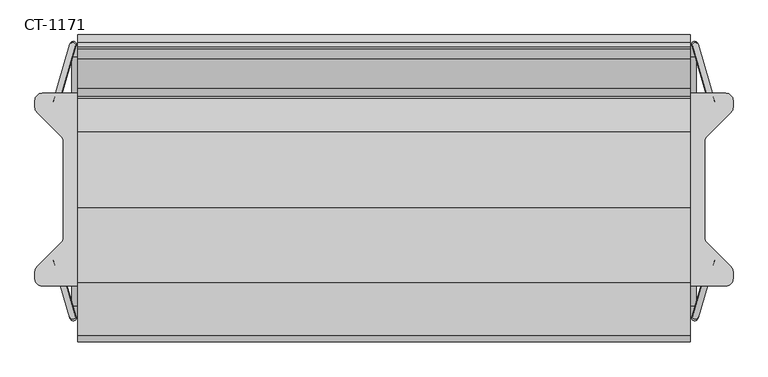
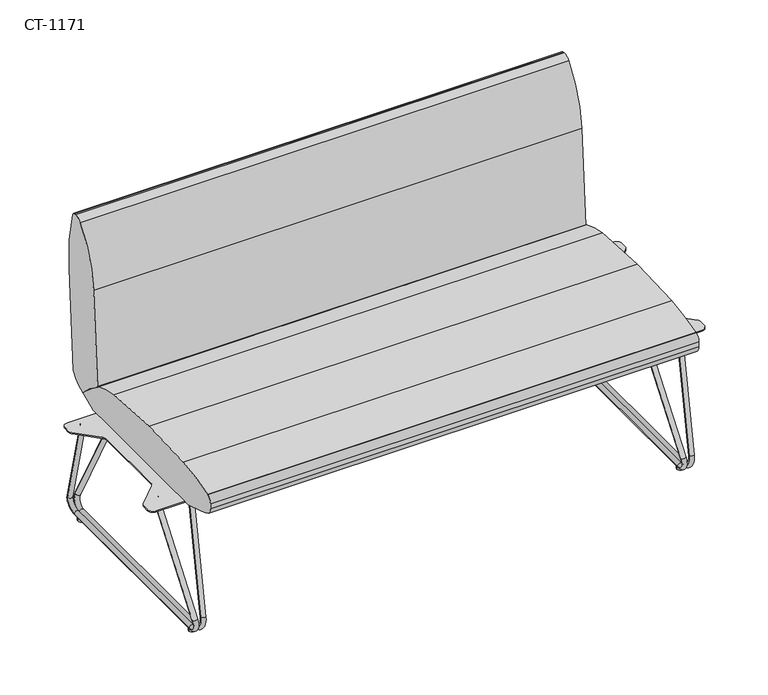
"""IFC4 building model written with IfcOpenShell, lengths in millimetres: furniture geometry, Davis_Furniture-Cantina-Low_Back_Straight : CT-1171."""

from ifc_helpers import new_model, si_unit, point, frame, frame_2d, origin, origin_with_axes, place, context, project, spatial, polyline, circle_curve, ellipse_curve, trimmed, segment, composite_curve, outline, extrude, source, transform, mapped, element, save
from ifc_brep_helpers import plane_surface, cylinder_surface, revolved_surface, advanced_brep


def ct_1171_176efd8a(model_context):
    return source(origin(), model_context, "Body", "SolidModel", [
        extrude(outline(composite_curve([segment(trimmed(circle_curve(frame_2d((709.0306813, 183.2173202)), 14.9820313), [point((709.0306813, 198.1993514))], [point((724.0127126, 183.2173202))], False, "CARTESIAN"), True, "CONTINUOUS"), segment(polyline([(724.0127126, 183.2173202), (724.0127126, 168.7877705)]), True, "CONTINUOUS"), segment(trimmed(circle_curve(frame_2d((710.0063569, 168.7877705)), 14.0063557), [point((724.0127126, 168.7877705))], [point((719.910346, 158.8837814))], False, "CARTESIAN"), True, "CONTINUOUS"), segment(polyline([(719.910346, 158.8837814), (669.3136664, 108.2871019)]), True, "CONTINUOUS"), segment(trimmed(circle_curve(frame_2d((679.6970876, 97.9036807)), 14.684375), [point((669.3136664, 108.2871019))], [point((665.0127126, 97.9036807))], True, "CARTESIAN"), True, "CONTINUOUS"), segment(polyline([(665.0127126, 97.9036807), (665.0127126, -101.5049781)]), True, "CONTINUOUS"), segment(trimmed(circle_curve(frame_2d((679.6970876, -101.5049781)), 14.684375), [point((665.0127126, -101.5049781))], [point((669.3136664, -111.8883992))], True, "CARTESIAN"), True, "CONTINUOUS"), segment(polyline([(669.3136664, -111.8883992), (719.910346, -162.4850787)]), True, "CONTINUOUS"), segment(trimmed(circle_curve(frame_2d((710.0063569, -172.3890678)), 14.0063557), [point((719.910346, -162.4850787))], [point((724.0127126, -172.3890678))], False, "CARTESIAN"), True, "CONTINUOUS"), segment(polyline([(724.0127126, -172.3890678), (724.0127126, -186.8186175)]), True, "CONTINUOUS"), segment(trimmed(circle_curve(frame_2d((709.0306813, -186.8186175)), 14.9820312), [point((724.0127126, -186.8186175))], [point((709.0306813, -201.8006488))], False, "CARTESIAN"), True, "CONTINUOUS"), segment(polyline([(709.0306813, -201.8006488), (560.9693187, -201.8006488)]), True, "CONTINUOUS"), segment(trimmed(circle_curve(frame_2d((560.9693187, -186.8440427)), 14.956606), [point((560.9693187, -201.8006488))], [point((546.0127127, -186.8440427))], False, "CARTESIAN"), True, "CONTINUOUS"), segment(polyline([(546.0127127, -186.8440427), (546.0127127, -172.3822284)]), True, "CONTINUOUS"), segment(trimmed(circle_curve(frame_2d((560.0025564, -172.3822284)), 13.9898438), [point((546.0127127, -172.3822284))], [point((550.110243, -162.489915))], False, "CARTESIAN"), True, "CONTINUOUS"), segment(polyline([(550.110243, -162.489915), (600.7117588, -111.8883992)]), True, "CONTINUOUS"), segment(trimmed(circle_curve(frame_2d((590.3283377, -101.5049781)), 14.684375), [point((600.7117588, -111.8883992))], [point((605.0127127, -101.5049781))], True, "CARTESIAN"), True, "CONTINUOUS"), segment(polyline([(605.0127127, -101.5049781), (605.0127127, 97.918921)]), True, "CONTINUOUS"), segment(trimmed(circle_curve(frame_2d((590.3651309, 97.918921)), 14.6475818), [point((605.0127127, 97.918921))], [point((600.7225353, 108.2763254))], True, "CARTESIAN"), True, "CONTINUOUS"), segment(polyline([(600.7225353, 108.2763254), (550.110243, 158.8886177)]), True, "CONTINUOUS"), segment(trimmed(circle_curve(frame_2d((560.0025564, 168.780931)), 13.9898437), [point((550.110243, 158.8886177))], [point((546.0127127, 168.780931))], False, "CARTESIAN"), True, "CONTINUOUS"), segment(polyline([(546.0127127, 168.780931), (546.0127127, 183.2427454)]), True, "CONTINUOUS"), segment(trimmed(circle_curve(frame_2d((560.9693187, 183.2427454)), 14.956606), [point((546.0127127, 183.2427454))], [point((560.9693187, 198.1993514))], False, "CARTESIAN"), True, "CONTINUOUS"), segment(polyline([(560.9693187, 198.1993514), (709.0306813, 198.1993514)]), True, "CONTINUOUS")], self_intersect=False)), frame((0.0, 0.0, 330.7277844), z_axis=(0.0, 0.0, 1.0), x_axis=(1.0, 0.0, 0.0)), (0.0, 0.0, 1.0), 3.1724353),
        advanced_brep(
        [(639.3476455, 298.4299122, 51.3019909), (651.7863293, 297.001732, 49.1737411), (686.3568189, 178.5251074, 330.7277844), (673.6568189, 180.8488451, 330.7277844), (634.9955294, 274.6441492, 15.8568497), (647.6955294, 274.6441492, 15.8568497), (634.9955294, -242.6856853, 15.8568497), (647.6955294, -242.6856853, 15.8568497), (639.3476455, -266.4714483, 51.3019909), (651.7863293, -265.0432681, 49.1737411), (673.6568189, -148.8903812, 330.7277844), (686.3568189, -146.5666435, 330.7277844)],
        [
            (0, 1, circle_curve(frame((645.5669874, 297.7158221, 50.237866), z_axis=(0.112455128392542, -0.3853952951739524, 0.9158735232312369), x_axis=(-0.9794239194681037, 0.11245512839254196, 0.16757872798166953)), 6.35)),
            (1, 2),
            (2, 3, ellipse_curve(frame((680.0068189, 179.6869762, 330.7277844), z_axis=(0.0, 0.0, -1.0), x_axis=(0.28011057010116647, -0.9599677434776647, 0.0)), 6.9332717, 6.35)),
            (3, 0),
            (1, 0, circle_curve(frame((645.5669874, 297.7158221, 50.237866), z_axis=(0.112455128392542, -0.3853952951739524, 0.9158735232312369), x_axis=(-0.9794239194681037, 0.11245512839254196, 0.16757872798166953)), 6.35)),
            (3, 2, ellipse_curve(frame((680.0068189, 179.6869762, 330.7277844), z_axis=(0.0, 0.0, -1.0), x_axis=(0.28011057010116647, -0.9599677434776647, 0.0)), 6.9332717, 6.35)),
            (0, 4, circle_curve(frame((638.1369549, 274.6441492, 41.4417072), z_axis=(-0.9925461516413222, 0.0, 0.12186934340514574), x_axis=(0.046967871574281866, 0.9227515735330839, 0.38252261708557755)), 25.7769953)),
            (4, 5, circle_curve(frame((641.3455294, 274.6441492, 15.8568497), z_axis=(0.0, 1.0, 0.0), x_axis=(-1.0, 0.0, 0.0)), 6.35)),
            (5, 1, circle_curve(frame((650.6483328, 274.6441492, 39.9055032), z_axis=(0.9925461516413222, 0.0, -0.12186934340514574), x_axis=(0.046967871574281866, 0.9227515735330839, 0.38252261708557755)), 24.2292547)),
            (5, 4, circle_curve(frame((641.3455294, 274.6441492, 15.8568497), z_axis=(0.0, 0.9999999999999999, 0.0), x_axis=(-1.0, 0.0, 0.0)), 6.35)),
            (4, 6),
            (6, 7, circle_curve(frame((641.3455294, -242.6856853, 15.8568497), z_axis=(0.0, 1.0, 0.0), x_axis=(-1.0, 0.0, 0.0)), 6.35)),
            (7, 5),
            (7, 6, circle_curve(frame((641.3455294, -242.6856853, 15.8568497), z_axis=(0.0, 1.0, 0.0), x_axis=(-1.0, 0.0, 0.0)), 6.35)),
            (6, 8, circle_curve(frame((638.1369549, -242.6856853, 41.4417072), z_axis=(-0.9925461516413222, 0.0, 0.12186934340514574), x_axis=(-0.12186934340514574, 0.0, -0.9925461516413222)), 25.7769953)),
            (8, 9, circle_curve(frame((645.5669874, -265.7573582, 50.237866), z_axis=(-0.11245512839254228, -0.3853952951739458, -0.9158735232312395), x_axis=(-0.9794239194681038, -0.1124551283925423, 0.16757872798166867)), 6.35)),
            (9, 7, circle_curve(frame((650.6483328, -242.6856853, 39.9055032), z_axis=(0.9925461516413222, 0.0, -0.12186934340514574), x_axis=(-0.12186934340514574, 0.0, -0.9925461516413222)), 24.2292547)),
            (9, 8, circle_curve(frame((645.5669874, -265.7573582, 50.237866), z_axis=(-0.11245512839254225, -0.3853952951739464, -0.9158735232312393), x_axis=(-0.9794239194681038, -0.11245512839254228, 0.16757872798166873)), 6.35)),
            (8, 10),
            (10, 11, ellipse_curve(frame((680.0068189, -147.7285123, 330.7277844), z_axis=(0.0, 0.0, -1.0), x_axis=(-0.28011057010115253, -0.9599677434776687, 0.0)), 6.9332717, 6.35)),
            (11, 9),
            (11, 10, ellipse_curve(frame((680.0068189, -147.7285123, 330.7277844), z_axis=(0.0, 0.0, -1.0), x_axis=(-0.28011057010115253, -0.9599677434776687, 0.0)), 6.9332717, 6.35)),
        ],
        [
            cylinder_surface(frame((681.1405198, 175.8016664, 339.9610379), z_axis=(0.112455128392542, -0.3853952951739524, 0.9158735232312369), x_axis=(-0.9794239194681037, 0.11245512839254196, 0.16757872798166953)), 6.35),
            revolved_surface(trimmed(ellipse_curve(frame((645.5669874, 297.7158221, 50.237866), z_axis=(0.11245512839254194, -0.38539529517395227, 0.9158735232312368), x_axis=(-0.9794239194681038, 0.112455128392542, 0.1675787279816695)), 6.35, 6.35), [point((639.3476455, 298.4299122, 51.3019909))], [point((651.7863293, 297.001732, 49.1737411))], True, "CARTESIAN"), (697.3582375, 274.6441492, 34.170248), (-0.9925461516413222, 0.0, 0.12186934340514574)),
            revolved_surface(trimmed(ellipse_curve(frame((645.5669874, 297.7158221, 50.237866), z_axis=(0.11245512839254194, -0.38539529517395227, 0.9158735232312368), x_axis=(-0.9794239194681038, 0.112455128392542, 0.1675787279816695)), 6.35, 6.35), [point((651.7863293, 297.001732, 49.1737411))], [point((639.3476455, 298.4299122, 51.3019909))], True, "CARTESIAN"), (697.3582375, 274.6441492, 34.170248), (-0.9925461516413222, 0.0, 0.12186934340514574)),
            cylinder_surface(frame((641.3455294, 274.6441492, 15.8568497), z_axis=(0.0, 1.0, 0.0), x_axis=(-1.0, 0.0, 0.0)), 6.35),
            revolved_surface(trimmed(ellipse_curve(frame((641.3455294, -242.6856853, 15.8568497), z_axis=(0.0, 1.0, 0.0), x_axis=(-1.0, 0.0, 0.0)), 6.35, 6.35), [point((634.9955294, -242.6856853, 15.8568497))], [point((647.6955294, -242.6856853, 15.8568497))], True, "CARTESIAN"), (697.3582375, -242.6856853, 34.170248), (-0.9925461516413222, 0.0, 0.12186934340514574)),
            revolved_surface(trimmed(ellipse_curve(frame((641.3455294, -242.6856853, 15.8568497), z_axis=(0.0, 1.0, 0.0), x_axis=(-1.0, 0.0, 0.0)), 6.35, 6.35), [point((647.6955294, -242.6856853, 15.8568497))], [point((634.9955294, -242.6856853, 15.8568497))], True, "CARTESIAN"), (697.3582375, -242.6856853, 34.170248), (-0.9925461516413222, 0.0, 0.12186934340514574)),
            cylinder_surface(frame((645.5669874, -265.7573582, 50.237866), z_axis=(-0.11245512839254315, -0.38539529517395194, -0.9158735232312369), x_axis=(-0.9794239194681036, -0.11245512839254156, 0.1675787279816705)), 6.35),
            plane_surface(frame((574.675, -168.170768, 330.7277844), z_axis=(0.0, 0.0, 1.0), x_axis=(0.0, 1.0, 0.0))),
        ],
        [
            (0, [[1, 2, 3, 4]]),
            (0, [[5, -4, 6, -2]]),
            (1, [[-1, 7, 8, 9]]),
            (2, [[-5, -9, 10, -7]]),
            (3, [[-8, 11, 12, 13]]),
            (3, [[-10, -13, 14, -11]]),
            (4, [[-12, 15, 16, 17]]),
            (5, [[-14, -17, 18, -15]]),
            (6, [[-16, 19, 20, 21]]),
            (6, [[-18, -21, 22, -19]]),
            (7, [[-3, -6]]),
            (7, [[-20, -22]]),
        ],
    ),
        advanced_brep(
        [(618.2136707, 297.001732, 49.1737411), (630.6523545, 298.4299122, 51.3019909), (596.3431811, 180.8488451, 330.7277844), (583.6431811, 178.5251074, 330.7277844), (622.3044706, 274.6441492, 15.8568497), (635.0044706, 274.6441492, 15.8568497), (622.3044706, -242.6856853, 15.8568497), (635.0044706, -242.6856853, 15.8568497), (618.2136707, -265.0432681, 49.1737411), (630.6523545, -266.4714483, 51.3019909), (583.6431811, -146.5666435, 330.7277844), (596.3431811, -148.8903812, 330.7277844)],
        [
            (0, 1, circle_curve(frame((624.4330126, 297.7158221, 50.237866), z_axis=(-0.11245512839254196, -0.38539529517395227, 0.915873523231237), x_axis=(0.9794239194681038, 0.11245512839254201, 0.1675787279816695)), 6.35)),
            (1, 2),
            (2, 3, ellipse_curve(frame((589.9931811, 179.6869762, 330.7277844), z_axis=(0.0, 0.0, -1.0), x_axis=(-0.28011057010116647, -0.9599677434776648, 0.0)), 6.9332717, 6.35)),
            (3, 0),
            (1, 0, circle_curve(frame((624.4330126, 297.7158221, 50.237866), z_axis=(-0.11245512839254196, -0.38539529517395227, 0.915873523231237), x_axis=(0.9794239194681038, 0.11245512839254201, 0.1675787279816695)), 6.35)),
            (3, 2, ellipse_curve(frame((589.9931811, 179.6869762, 330.7277844), z_axis=(0.0, 0.0, -1.0), x_axis=(-0.28011057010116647, -0.9599677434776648, 0.0)), 6.9332717, 6.35)),
            (0, 4, circle_curve(frame((619.3516672, 274.6441492, 39.9055032), z_axis=(-0.9925461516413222, 0.0, -0.12186934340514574), x_axis=(-0.046967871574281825, 0.9227515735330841, 0.38252261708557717)), 24.2292547)),
            (4, 5, circle_curve(frame((628.6544706, 274.6441492, 15.8568497), z_axis=(0.0, 1.0000000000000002, 0.0), x_axis=(1.0, 0.0, 0.0)), 6.35)),
            (5, 1, circle_curve(frame((631.8630451, 274.6441492, 41.4417072), z_axis=(0.9925461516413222, 0.0, 0.12186934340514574), x_axis=(-0.046967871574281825, 0.9227515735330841, 0.38252261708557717)), 25.7769953)),
            (5, 4, circle_curve(frame((628.6544706, 274.6441492, 15.8568497), z_axis=(0.0, 1.0000000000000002, 0.0), x_axis=(1.0, 0.0, 0.0)), 6.35)),
            (4, 6),
            (6, 7, circle_curve(frame((628.6544706, -242.6856853, 15.8568497), z_axis=(0.0, 1.0, 0.0), x_axis=(1.0, 0.0, 0.0)), 6.35)),
            (7, 5),
            (7, 6, circle_curve(frame((628.6544706, -242.6856853, 15.8568497), z_axis=(0.0, 1.0, 0.0), x_axis=(1.0, 0.0, 0.0)), 6.35)),
            (6, 8, circle_curve(frame((619.3516672, -242.6856853, 39.9055032), z_axis=(-0.9925461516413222, 0.0, -0.12186934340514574), x_axis=(0.12186934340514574, 0.0, -0.9925461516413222)), 24.2292547)),
            (8, 9, circle_curve(frame((624.4330126, -265.7573582, 50.237866), z_axis=(0.11245512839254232, -0.3853952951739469, -0.915873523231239), x_axis=(0.9794239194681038, -0.11245512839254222, 0.1675787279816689)), 6.35)),
            (9, 7, circle_curve(frame((631.8630451, -242.6856853, 41.4417072), z_axis=(0.9925461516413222, 0.0, 0.12186934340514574), x_axis=(0.12186934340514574, 0.0, -0.9925461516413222)), 25.7769953)),
            (9, 8, circle_curve(frame((624.4330126, -265.7573582, 50.237866), z_axis=(0.11245512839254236, -0.3853952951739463, -0.9158735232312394), x_axis=(0.9794239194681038, -0.11245512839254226, 0.1675787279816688)), 6.35)),
            (8, 10),
            (10, 11, ellipse_curve(frame((589.9931811, -147.7285123, 330.7277844), z_axis=(0.0, 0.0, -1.0), x_axis=(0.2801105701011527, -0.9599677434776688, 0.0)), 6.9332717, 6.35)),
            (11, 9),
            (11, 10, ellipse_curve(frame((589.9931811, -147.7285123, 330.7277844), z_axis=(0.0, 0.0, -1.0), x_axis=(0.2801105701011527, -0.9599677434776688, 0.0)), 6.9332717, 6.35)),
        ],
        [
            cylinder_surface(frame((588.8594802, 175.8016664, 339.9610379), z_axis=(-0.11245512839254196, -0.38539529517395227, 0.915873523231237), x_axis=(0.9794239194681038, 0.11245512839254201, 0.1675787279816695)), 6.35),
            revolved_surface(trimmed(ellipse_curve(frame((624.4330126, 297.7158221, 50.237866), z_axis=(-0.11245512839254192, -0.385395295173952, 0.9158735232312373), x_axis=(0.9794239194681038, 0.11245512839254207, 0.1675787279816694)), 6.35, 6.35), [point((618.2136707, 297.001732, 49.1737411))], [point((630.6523545, 298.4299122, 51.3019909))], True, "CARTESIAN"), (572.6417625, 274.6441492, 34.170248), (-0.9925461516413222, 0.0, -0.12186934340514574)),
            revolved_surface(trimmed(ellipse_curve(frame((624.4330126, 297.7158221, 50.237866), z_axis=(-0.11245512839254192, -0.385395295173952, 0.9158735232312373), x_axis=(0.9794239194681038, 0.11245512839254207, 0.1675787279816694)), 6.35, 6.35), [point((630.6523545, 298.4299122, 51.3019909))], [point((618.2136707, 297.001732, 49.1737411))], True, "CARTESIAN"), (572.6417625, 274.6441492, 34.170248), (-0.9925461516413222, 0.0, -0.12186934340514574)),
            cylinder_surface(frame((628.6544706, 274.6441492, 15.8568497), z_axis=(0.0, 1.0, 0.0), x_axis=(1.0, 0.0, 0.0)), 6.35),
            revolved_surface(trimmed(ellipse_curve(frame((628.6544706, -242.6856853, 15.8568497), z_axis=(0.0, 1.0, 0.0), x_axis=(1.0, 0.0, 0.0)), 6.35, 6.35), [point((622.3044706, -242.6856853, 15.8568497))], [point((635.0044706, -242.6856853, 15.8568497))], True, "CARTESIAN"), (572.6417625, -242.6856853, 34.170248), (-0.9925461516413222, 0.0, -0.12186934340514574)),
            revolved_surface(trimmed(ellipse_curve(frame((628.6544706, -242.6856853, 15.8568497), z_axis=(0.0, 1.0, 0.0), x_axis=(1.0, 0.0, 0.0)), 6.35, 6.35), [point((635.0044706, -242.6856853, 15.8568497))], [point((622.3044706, -242.6856853, 15.8568497))], True, "CARTESIAN"), (572.6417625, -242.6856853, 34.170248), (-0.9925461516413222, 0.0, -0.12186934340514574)),
            cylinder_surface(frame((624.4330126, -265.7573582, 50.237866), z_axis=(0.11245512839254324, -0.38539529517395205, -0.9158735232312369), x_axis=(0.9794239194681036, -0.11245512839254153, 0.16757872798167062)), 6.35),
            plane_surface(frame((574.675, -168.170768, 330.7277844), z_axis=(0.0, 0.0, 1.0), x_axis=(0.0, 1.0, 0.0))),
        ],
        [
            (0, [[1, 2, 3, 4]]),
            (0, [[5, -4, 6, -2]]),
            (1, [[-1, 7, 8, 9]]),
            (2, [[-5, -9, 10, -7]]),
            (3, [[-8, 11, 12, 13]]),
            (3, [[-10, -13, 14, -11]]),
            (4, [[-12, 15, 16, 17]]),
            (5, [[-14, -17, 18, -15]]),
            (6, [[-16, 19, 20, 21]]),
            (6, [[-18, -21, 22, -19]]),
            (7, [[-3, -6]]),
            (7, [[-20, -22]]),
        ],
    ),
        extrude(outline(composite_curve([segment(trimmed(circle_curve(frame_2d((635.0, -233.1061316)), 8.5328125), [point((626.4671875, -233.1061316))], [point((643.5328125, -233.1061316))], False, "CARTESIAN"), True, "CONTINUOUS"), segment(trimmed(circle_curve(frame_2d((635.0, -233.1061316)), 8.5328125), [point((643.5328125, -233.1061316))], [point((626.4671875, -233.1061316))], False, "CARTESIAN"), True, "CONTINUOUS")], self_intersect=False)), origin_with_axes(), (0.0, 0.0, 1.0), 9.5168817),
        extrude(outline(composite_curve([segment(trimmed(circle_curve(frame_2d((635.0, 265.0645955)), 8.5328125), [point((626.4671875, 265.0645955))], [point((643.5328125, 265.0645955))], False, "CARTESIAN"), True, "CONTINUOUS"), segment(trimmed(circle_curve(frame_2d((635.0, 265.0645955)), 8.5328125), [point((643.5328125, 265.0645955))], [point((626.4671875, 265.0645955))], False, "CARTESIAN"), True, "CONTINUOUS")], self_intersect=False)), origin_with_axes(), (0.0, 0.0, 1.0), 9.5168817),
        extrude(outline(composite_curve([segment(trimmed(circle_curve(frame_2d((-560.9693187, 183.2173202)), 14.9820313), [point((-560.9693187, 198.1993514))], [point((-545.9872874, 183.2173202))], False, "CARTESIAN"), True, "CONTINUOUS"), segment(polyline([(-545.9872874, 183.2173202), (-545.9872874, 168.7877705)]), True, "CONTINUOUS"), segment(trimmed(circle_curve(frame_2d((-559.9936431, 168.7877705)), 14.0063557), [point((-545.9872874, 168.7877705))], [point((-550.089654, 158.8837814))], False, "CARTESIAN"), True, "CONTINUOUS"), segment(polyline([(-550.089654, 158.8837814), (-600.6863336, 108.2871019)]), True, "CONTINUOUS"), segment(trimmed(circle_curve(frame_2d((-590.3029124, 97.9036807)), 14.684375), [point((-600.6863336, 108.2871019))], [point((-604.9872874, 97.9036807))], True, "CARTESIAN"), True, "CONTINUOUS"), segment(polyline([(-604.9872874, 97.9036807), (-604.9872874, -101.5049781)]), True, "CONTINUOUS"), segment(trimmed(circle_curve(frame_2d((-590.3029124, -101.5049781)), 14.684375), [point((-604.9872874, -101.5049781))], [point((-600.6863336, -111.8883992))], True, "CARTESIAN"), True, "CONTINUOUS"), segment(polyline([(-600.6863336, -111.8883992), (-550.089654, -162.4850787)]), True, "CONTINUOUS"), segment(trimmed(circle_curve(frame_2d((-559.9936431, -172.3890678)), 14.0063557), [point((-550.089654, -162.4850787))], [point((-545.9872874, -172.3890678))], False, "CARTESIAN"), True, "CONTINUOUS"), segment(polyline([(-545.9872874, -172.3890678), (-545.9872874, -186.8186175)]), True, "CONTINUOUS"), segment(trimmed(circle_curve(frame_2d((-560.9693187, -186.8186175)), 14.9820312), [point((-545.9872874, -186.8186175))], [point((-560.9693187, -201.8006488))], False, "CARTESIAN"), True, "CONTINUOUS"), segment(polyline([(-560.9693187, -201.8006488), (-709.0306813, -201.8006488)]), True, "CONTINUOUS"), segment(trimmed(circle_curve(frame_2d((-709.0306813, -186.8440427)), 14.956606), [point((-709.0306813, -201.8006488))], [point((-723.9872873, -186.8440427))], False, "CARTESIAN"), True, "CONTINUOUS"), segment(polyline([(-723.9872873, -186.8440427), (-723.9872873, -172.3822284)]), True, "CONTINUOUS"), segment(trimmed(circle_curve(frame_2d((-709.9974436, -172.3822284)), 13.9898438), [point((-723.9872873, -172.3822284))], [point((-719.889757, -162.489915))], False, "CARTESIAN"), True, "CONTINUOUS"), segment(polyline([(-719.889757, -162.489915), (-669.2882412, -111.8883992)]), True, "CONTINUOUS"), segment(trimmed(circle_curve(frame_2d((-679.6716623, -101.5049781)), 14.684375), [point((-669.2882412, -111.8883992))], [point((-664.9872873, -101.5049781))], True, "CARTESIAN"), True, "CONTINUOUS"), segment(polyline([(-664.9872873, -101.5049781), (-664.9872873, 97.918921)]), True, "CONTINUOUS"), segment(trimmed(circle_curve(frame_2d((-679.6348691, 97.918921)), 14.6475818), [point((-664.9872873, 97.918921))], [point((-669.2774647, 108.2763254))], True, "CARTESIAN"), True, "CONTINUOUS"), segment(polyline([(-669.2774647, 108.2763254), (-719.889757, 158.8886177)]), True, "CONTINUOUS"), segment(trimmed(circle_curve(frame_2d((-709.9974436, 168.780931)), 13.9898437), [point((-719.889757, 158.8886177))], [point((-723.9872873, 168.780931))], False, "CARTESIAN"), True, "CONTINUOUS"), segment(polyline([(-723.9872873, 168.780931), (-723.9872873, 183.2427454)]), True, "CONTINUOUS"), segment(trimmed(circle_curve(frame_2d((-709.0306813, 183.2427454)), 14.956606), [point((-723.9872873, 183.2427454))], [point((-709.0306813, 198.1993514))], False, "CARTESIAN"), True, "CONTINUOUS"), segment(polyline([(-709.0306813, 198.1993514), (-560.9693187, 198.1993514)]), True, "CONTINUOUS")], self_intersect=False)), frame((0.0, 0.0, 330.7277844), z_axis=(0.0, 0.0, 1.0), x_axis=(1.0, 0.0, 0.0)), (0.0, 0.0, 1.0), 3.1724353),
        advanced_brep(
        [(-630.6523545, 298.4299122, 51.3019909), (-618.2136707, 297.001732, 49.1737411), (-583.6431811, 178.5251074, 330.7277844), (-596.3431811, 180.8488451, 330.7277844), (-635.0044706, 274.6441492, 15.8568497), (-622.3044706, 274.6441492, 15.8568497), (-635.0044706, -242.6856853, 15.8568497), (-622.3044706, -242.6856853, 15.8568497), (-630.6523545, -266.4714483, 51.3019909), (-618.2136707, -265.0432681, 49.1737411), (-596.3431811, -148.8903812, 330.7277844), (-583.6431811, -146.5666435, 330.7277844)],
        [
            (0, 1, circle_curve(frame((-624.4330126, 297.7158221, 50.237866), z_axis=(0.112455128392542, -0.3853952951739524, 0.9158735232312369), x_axis=(-0.9794239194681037, 0.11245512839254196, 0.16757872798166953)), 6.35)),
            (1, 2),
            (2, 3, ellipse_curve(frame((-589.9931811, 179.6869762, 330.7277844), z_axis=(0.0, 0.0, -1.0), x_axis=(0.28011057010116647, -0.9599677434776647, 0.0)), 6.9332717, 6.35)),
            (3, 0),
            (1, 0, circle_curve(frame((-624.4330126, 297.7158221, 50.237866), z_axis=(0.112455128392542, -0.3853952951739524, 0.9158735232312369), x_axis=(-0.9794239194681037, 0.11245512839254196, 0.16757872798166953)), 6.35)),
            (3, 2, ellipse_curve(frame((-589.9931811, 179.6869762, 330.7277844), z_axis=(0.0, 0.0, -1.0), x_axis=(0.28011057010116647, -0.9599677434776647, 0.0)), 6.9332717, 6.35)),
            (0, 4, circle_curve(frame((-631.8630451, 274.6441492, 41.4417072), z_axis=(-0.9925461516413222, 0.0, 0.12186934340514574), x_axis=(0.046967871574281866, 0.9227515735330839, 0.38252261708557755)), 25.7769953)),
            (4, 5, circle_curve(frame((-628.6544706, 274.6441492, 15.8568497), z_axis=(0.0, 1.0, 0.0), x_axis=(-1.0, 0.0, 0.0)), 6.35)),
            (5, 1, circle_curve(frame((-619.3516672, 274.6441492, 39.9055032), z_axis=(0.9925461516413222, 0.0, -0.12186934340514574), x_axis=(0.046967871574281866, 0.9227515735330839, 0.38252261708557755)), 24.2292547)),
            (5, 4, circle_curve(frame((-628.6544706, 274.6441492, 15.8568497), z_axis=(0.0, 0.9999999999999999, 0.0), x_axis=(-1.0, 0.0, 0.0)), 6.35)),
            (4, 6),
            (6, 7, circle_curve(frame((-628.6544706, -242.6856853, 15.8568497), z_axis=(0.0, 1.0, 0.0), x_axis=(-1.0, 0.0, 0.0)), 6.35)),
            (7, 5),
            (7, 6, circle_curve(frame((-628.6544706, -242.6856853, 15.8568497), z_axis=(0.0, 1.0, 0.0), x_axis=(-1.0, 0.0, 0.0)), 6.35)),
            (6, 8, circle_curve(frame((-631.8630451, -242.6856853, 41.4417072), z_axis=(-0.9925461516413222, 0.0, 0.12186934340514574), x_axis=(-0.12186934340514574, 0.0, -0.9925461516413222)), 25.7769953)),
            (8, 9, circle_curve(frame((-624.4330126, -265.7573582, 50.237866), z_axis=(-0.11245512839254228, -0.3853952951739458, -0.9158735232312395), x_axis=(-0.9794239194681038, -0.1124551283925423, 0.16757872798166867)), 6.35)),
            (9, 7, circle_curve(frame((-619.3516672, -242.6856853, 39.9055032), z_axis=(0.9925461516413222, 0.0, -0.12186934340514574), x_axis=(-0.12186934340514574, 0.0, -0.9925461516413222)), 24.2292547)),
            (9, 8, circle_curve(frame((-624.4330126, -265.7573582, 50.237866), z_axis=(-0.11245512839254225, -0.3853952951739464, -0.9158735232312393), x_axis=(-0.9794239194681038, -0.11245512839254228, 0.16757872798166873)), 6.35)),
            (8, 10),
            (10, 11, ellipse_curve(frame((-589.9931811, -147.7285123, 330.7277844), z_axis=(0.0, 0.0, -1.0), x_axis=(-0.28011057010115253, -0.9599677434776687, 0.0)), 6.9332717, 6.35)),
            (11, 9),
            (11, 10, ellipse_curve(frame((-589.9931811, -147.7285123, 330.7277844), z_axis=(0.0, 0.0, -1.0), x_axis=(-0.28011057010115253, -0.9599677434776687, 0.0)), 6.9332717, 6.35)),
        ],
        [
            cylinder_surface(frame((-588.8594802, 175.8016664, 339.9610379), z_axis=(0.112455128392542, -0.3853952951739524, 0.9158735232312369), x_axis=(-0.9794239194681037, 0.11245512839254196, 0.16757872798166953)), 6.35),
            revolved_surface(trimmed(ellipse_curve(frame((-624.4330126, 297.7158221, 50.237866), z_axis=(0.11245512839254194, -0.38539529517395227, 0.9158735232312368), x_axis=(-0.9794239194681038, 0.112455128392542, 0.1675787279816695)), 6.35, 6.35), [point((-630.6523545, 298.4299122, 51.3019909))], [point((-618.2136707, 297.001732, 49.1737411))], True, "CARTESIAN"), (-572.6417625, 274.6441492, 34.170248), (-0.9925461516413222, 0.0, 0.12186934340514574)),
            revolved_surface(trimmed(ellipse_curve(frame((-624.4330126, 297.7158221, 50.237866), z_axis=(0.11245512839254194, -0.38539529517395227, 0.9158735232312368), x_axis=(-0.9794239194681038, 0.112455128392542, 0.1675787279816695)), 6.35, 6.35), [point((-618.2136707, 297.001732, 49.1737411))], [point((-630.6523545, 298.4299122, 51.3019909))], True, "CARTESIAN"), (-572.6417625, 274.6441492, 34.170248), (-0.9925461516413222, 0.0, 0.12186934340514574)),
            cylinder_surface(frame((-628.6544706, 274.6441492, 15.8568497), z_axis=(0.0, 1.0, 0.0), x_axis=(-1.0, 0.0, 0.0)), 6.35),
            revolved_surface(trimmed(ellipse_curve(frame((-628.6544706, -242.6856853, 15.8568497), z_axis=(0.0, 1.0, 0.0), x_axis=(-1.0, 0.0, 0.0)), 6.35, 6.35), [point((-635.0044706, -242.6856853, 15.8568497))], [point((-622.3044706, -242.6856853, 15.8568497))], True, "CARTESIAN"), (-572.6417625, -242.6856853, 34.170248), (-0.9925461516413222, 0.0, 0.12186934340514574)),
            revolved_surface(trimmed(ellipse_curve(frame((-628.6544706, -242.6856853, 15.8568497), z_axis=(0.0, 1.0, 0.0), x_axis=(-1.0, 0.0, 0.0)), 6.35, 6.35), [point((-622.3044706, -242.6856853, 15.8568497))], [point((-635.0044706, -242.6856853, 15.8568497))], True, "CARTESIAN"), (-572.6417625, -242.6856853, 34.170248), (-0.9925461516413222, 0.0, 0.12186934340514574)),
            cylinder_surface(frame((-624.4330126, -265.7573582, 50.237866), z_axis=(-0.11245512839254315, -0.38539529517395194, -0.9158735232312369), x_axis=(-0.9794239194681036, -0.11245512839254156, 0.1675787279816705)), 6.35),
            plane_surface(frame((-695.325, -168.170768, 330.7277844), z_axis=(0.0, 0.0, 1.0), x_axis=(0.0, 1.0, 0.0))),
        ],
        [
            (0, [[1, 2, 3, 4]]),
            (0, [[5, -4, 6, -2]]),
            (1, [[-1, 7, 8, 9]]),
            (2, [[-5, -9, 10, -7]]),
            (3, [[-8, 11, 12, 13]]),
            (3, [[-10, -13, 14, -11]]),
            (4, [[-12, 15, 16, 17]]),
            (5, [[-14, -17, 18, -15]]),
            (6, [[-16, 19, 20, 21]]),
            (6, [[-18, -21, 22, -19]]),
            (7, [[-3, -6]]),
            (7, [[-20, -22]]),
        ],
    ),
        advanced_brep(
        [(-651.7863293, 297.001732, 49.1737411), (-639.3476455, 298.4299122, 51.3019909), (-673.6568189, 180.8488451, 330.7277844), (-686.3568189, 178.5251074, 330.7277844), (-647.6955294, 274.6441492, 15.8568497), (-634.9955294, 274.6441492, 15.8568497), (-647.6955294, -242.6856853, 15.8568497), (-634.9955294, -242.6856853, 15.8568497), (-651.7863293, -265.0432681, 49.1737411), (-639.3476455, -266.4714483, 51.3019909), (-686.3568189, -146.5666435, 330.7277844), (-673.6568189, -148.8903812, 330.7277844)],
        [
            (0, 1, circle_curve(frame((-645.5669874, 297.7158221, 50.237866), z_axis=(-0.11245512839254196, -0.38539529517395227, 0.915873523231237), x_axis=(0.9794239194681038, 0.11245512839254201, 0.1675787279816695)), 6.35)),
            (1, 2),
            (2, 3, ellipse_curve(frame((-680.0068189, 179.6869762, 330.7277844), z_axis=(0.0, 0.0, -1.0), x_axis=(-0.28011057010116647, -0.9599677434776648, 0.0)), 6.9332717, 6.35)),
            (3, 0),
            (1, 0, circle_curve(frame((-645.5669874, 297.7158221, 50.237866), z_axis=(-0.11245512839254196, -0.38539529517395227, 0.915873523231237), x_axis=(0.9794239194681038, 0.11245512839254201, 0.1675787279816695)), 6.35)),
            (3, 2, ellipse_curve(frame((-680.0068189, 179.6869762, 330.7277844), z_axis=(0.0, 0.0, -1.0), x_axis=(-0.28011057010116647, -0.9599677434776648, 0.0)), 6.9332717, 6.35)),
            (0, 4, circle_curve(frame((-650.6483328, 274.6441492, 39.9055032), z_axis=(-0.9925461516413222, 0.0, -0.12186934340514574), x_axis=(-0.046967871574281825, 0.9227515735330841, 0.38252261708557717)), 24.2292547)),
            (4, 5, circle_curve(frame((-641.3455294, 274.6441492, 15.8568497), z_axis=(0.0, 1.0000000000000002, 0.0), x_axis=(1.0, 0.0, 0.0)), 6.35)),
            (5, 1, circle_curve(frame((-638.1369549, 274.6441492, 41.4417072), z_axis=(0.9925461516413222, 0.0, 0.12186934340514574), x_axis=(-0.046967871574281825, 0.9227515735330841, 0.38252261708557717)), 25.7769953)),
            (5, 4, circle_curve(frame((-641.3455294, 274.6441492, 15.8568497), z_axis=(0.0, 1.0000000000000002, 0.0), x_axis=(1.0, 0.0, 0.0)), 6.35)),
            (4, 6),
            (6, 7, circle_curve(frame((-641.3455294, -242.6856853, 15.8568497), z_axis=(0.0, 1.0, 0.0), x_axis=(1.0, 0.0, 0.0)), 6.35)),
            (7, 5),
            (7, 6, circle_curve(frame((-641.3455294, -242.6856853, 15.8568497), z_axis=(0.0, 1.0, 0.0), x_axis=(1.0, 0.0, 0.0)), 6.35)),
            (6, 8, circle_curve(frame((-650.6483328, -242.6856853, 39.9055032), z_axis=(-0.9925461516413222, 0.0, -0.12186934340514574), x_axis=(0.12186934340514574, 0.0, -0.9925461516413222)), 24.2292547)),
            (8, 9, circle_curve(frame((-645.5669874, -265.7573582, 50.237866), z_axis=(0.11245512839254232, -0.3853952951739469, -0.915873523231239), x_axis=(0.9794239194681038, -0.11245512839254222, 0.1675787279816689)), 6.35)),
            (9, 7, circle_curve(frame((-638.1369549, -242.6856853, 41.4417072), z_axis=(0.9925461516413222, 0.0, 0.12186934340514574), x_axis=(0.12186934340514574, 0.0, -0.9925461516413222)), 25.7769953)),
            (9, 8, circle_curve(frame((-645.5669874, -265.7573582, 50.237866), z_axis=(0.11245512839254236, -0.3853952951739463, -0.9158735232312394), x_axis=(0.9794239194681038, -0.11245512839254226, 0.1675787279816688)), 6.35)),
            (8, 10),
            (10, 11, ellipse_curve(frame((-680.0068189, -147.7285123, 330.7277844), z_axis=(0.0, 0.0, -1.0), x_axis=(0.2801105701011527, -0.9599677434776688, 0.0)), 6.9332717, 6.35)),
            (11, 9),
            (11, 10, ellipse_curve(frame((-680.0068189, -147.7285123, 330.7277844), z_axis=(0.0, 0.0, -1.0), x_axis=(0.2801105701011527, -0.9599677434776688, 0.0)), 6.9332717, 6.35)),
        ],
        [
            cylinder_surface(frame((-681.1405198, 175.8016664, 339.9610379), z_axis=(-0.11245512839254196, -0.38539529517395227, 0.915873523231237), x_axis=(0.9794239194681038, 0.11245512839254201, 0.1675787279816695)), 6.35),
            revolved_surface(trimmed(ellipse_curve(frame((-645.5669874, 297.7158221, 50.237866), z_axis=(-0.11245512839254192, -0.385395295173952, 0.9158735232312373), x_axis=(0.9794239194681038, 0.11245512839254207, 0.1675787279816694)), 6.35, 6.35), [point((-651.7863293, 297.001732, 49.1737411))], [point((-639.3476455, 298.4299122, 51.3019909))], True, "CARTESIAN"), (-697.3582375, 274.6441492, 34.170248), (-0.9925461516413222, 0.0, -0.12186934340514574)),
            revolved_surface(trimmed(ellipse_curve(frame((-645.5669874, 297.7158221, 50.237866), z_axis=(-0.11245512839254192, -0.385395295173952, 0.9158735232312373), x_axis=(0.9794239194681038, 0.11245512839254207, 0.1675787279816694)), 6.35, 6.35), [point((-639.3476455, 298.4299122, 51.3019909))], [point((-651.7863293, 297.001732, 49.1737411))], True, "CARTESIAN"), (-697.3582375, 274.6441492, 34.170248), (-0.9925461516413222, 0.0, -0.12186934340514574)),
            cylinder_surface(frame((-641.3455294, 274.6441492, 15.8568497), z_axis=(0.0, 1.0, 0.0), x_axis=(1.0, 0.0, 0.0)), 6.35),
            revolved_surface(trimmed(ellipse_curve(frame((-641.3455294, -242.6856853, 15.8568497), z_axis=(0.0, 1.0, 0.0), x_axis=(1.0, 0.0, 0.0)), 6.35, 6.35), [point((-647.6955294, -242.6856853, 15.8568497))], [point((-634.9955294, -242.6856853, 15.8568497))], True, "CARTESIAN"), (-697.3582375, -242.6856853, 34.170248), (-0.9925461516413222, 0.0, -0.12186934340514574)),
            revolved_surface(trimmed(ellipse_curve(frame((-641.3455294, -242.6856853, 15.8568497), z_axis=(0.0, 1.0, 0.0), x_axis=(1.0, 0.0, 0.0)), 6.35, 6.35), [point((-634.9955294, -242.6856853, 15.8568497))], [point((-647.6955294, -242.6856853, 15.8568497))], True, "CARTESIAN"), (-697.3582375, -242.6856853, 34.170248), (-0.9925461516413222, 0.0, -0.12186934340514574)),
            cylinder_surface(frame((-645.5669874, -265.7573582, 50.237866), z_axis=(0.11245512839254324, -0.38539529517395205, -0.9158735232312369), x_axis=(0.9794239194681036, -0.11245512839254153, 0.16757872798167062)), 6.35),
            plane_surface(frame((-695.325, -168.170768, 330.7277844), z_axis=(0.0, 0.0, 1.0), x_axis=(0.0, 1.0, 0.0))),
        ],
        [
            (0, [[1, 2, 3, 4]]),
            (0, [[5, -4, 6, -2]]),
            (1, [[-1, 7, 8, 9]]),
            (2, [[-5, -9, 10, -7]]),
            (3, [[-8, 11, 12, 13]]),
            (3, [[-10, -13, 14, -11]]),
            (4, [[-12, 15, 16, 17]]),
            (5, [[-14, -17, 18, -15]]),
            (6, [[-16, 19, 20, 21]]),
            (6, [[-18, -21, 22, -19]]),
            (7, [[-3, -6]]),
            (7, [[-20, -22]]),
        ],
    ),
        extrude(outline(composite_curve([segment(trimmed(circle_curve(frame_2d((-635.0, -233.1061316)), 8.5328125), [point((-643.5328125, -233.1061316))], [point((-626.4671875, -233.1061316))], False, "CARTESIAN"), True, "CONTINUOUS"), segment(trimmed(circle_curve(frame_2d((-635.0, -233.1061316)), 8.5328125), [point((-626.4671875, -233.1061316))], [point((-643.5328125, -233.1061316))], False, "CARTESIAN"), True, "CONTINUOUS")], self_intersect=False)), origin_with_axes(), (0.0, 0.0, 1.0), 9.5168817),
        extrude(outline(composite_curve([segment(trimmed(circle_curve(frame_2d((-635.0, 265.0645955)), 8.5328125), [point((-643.5328125, 265.0645955))], [point((-626.4671875, 265.0645955))], False, "CARTESIAN"), True, "CONTINUOUS"), segment(trimmed(circle_curve(frame_2d((-635.0, 265.0645955)), 8.5328125), [point((-626.4671875, 265.0645955))], [point((-643.5328125, 265.0645955))], False, "CARTESIAN"), True, "CONTINUOUS")], self_intersect=False)), origin_with_axes(), (0.0, 0.0, 1.0), 9.5168817),
        extrude(outline(composite_curve([segment(trimmed(circle_curve(frame_2d((474.1493206, 647.1766808)), 265.6354781), [point((209.1609171, 665.7064751))], [point((268.5355522, 815.358682))], False, "CARTESIAN"), True, "CONTINUOUS"), segment(trimmed(circle_curve(frame_2d((288.1962909, 799.2771598)), 25.4), [point((268.5355522, 815.358682))], [point((289.7203272, 824.6313964))], False, "CARTESIAN"), True, "CONTINUOUS"), segment(trimmed(circle_curve(frame_2d((287.8787488, 793.9944533)), 30.6922416), [point((289.7203272, 824.6313964))], [point((294.4061536, 823.984563))], False, "CARTESIAN"), True, "CONTINUOUS"), segment(trimmed(circle_curve(frame_2d((291.9702432, 812.7927917)), 11.4537943), [point((294.4061536, 823.984563))], [point((302.9831943, 815.9399032))], False, "CARTESIAN"), True, "CONTINUOUS"), segment(trimmed(circle_curve(frame_2d((-137.8318519, 689.9705732)), 458.4606603), [point((302.9831943, 815.9399032))], [point((319.5120213, 657.9899742))], False, "CARTESIAN"), True, "CONTINUOUS"), segment(polyline([(319.5120213, 657.9899742), (300.7190563, 389.2380528)]), True, "CONTINUOUS"), segment(trimmed(circle_curve(frame_2d((220.5881555, 443.6723211)), 96.8713106), [point((300.7190563, 389.2380528))], [point((259.2429572, 354.8474534))], False, "CARTESIAN"), True, "CONTINUOUS"), segment(polyline([(259.2429572, 354.8474534), (257.534578, 354.104001)]), True, "CONTINUOUS"), segment(trimmed(circle_curve(frame_2d((-1.5780479, 110.6982429)), 355.5076876), [point((257.534578, 354.104001))], [point((191.236527, 409.3757541))], True, "CARTESIAN"), True, "CONTINUOUS"), segment(polyline([(191.236527, 409.3757541), (209.1609171, 665.7064751)]), True, "CONTINUOUS")], self_intersect=False)), frame((-635.0, 0.0, 0.0), z_axis=(1.0, 0.0, 0.0), x_axis=(0.0, 1.0, 0.0)), (0.0, 0.0, 1.0), 1270.0),
        extrude(outline(composite_curve([segment(trimmed(circle_curve(frame_2d((-298.45, 397.7963214)), 19.05), [point((-317.5, 397.7963214))], [point((-305.7075305, 415.40969))], False, "CARTESIAN"), True, "CONTINUOUS"), segment(trimmed(circle_curve(frame_2d((-158.75, 58.7570862)), 385.7429138), [point((-305.7075305, 415.40969))], [point((-303.9688287, 416.1211685))], False, "CARTESIAN"), True, "CONTINUOUS"), segment(trimmed(circle_curve(frame_2d((-152.4794636, -82.1541678)), 520.7949103), [point((-303.9688287, 416.1211685))], [point((-195.0051963, 436.9016101))], False, "CARTESIAN"), True, "CONTINUOUS"), segment(trimmed(circle_curve(frame_2d((-43.2851266, -1414.9460545)), 1858.0524085), [point((-195.0051963, 436.9016101))], [point((-40.3038638, 443.1039622))], False, "CARTESIAN"), True, "CONTINUOUS"), segment(trimmed(circle_curve(frame_2d((-42.4075795, -868.0213401)), 1311.12699), [point((-40.3038638, 443.1039622))], [point((118.3875039, 433.208434))], False, "CARTESIAN"), True, "CONTINUOUS"), segment(trimmed(circle_curve(frame_2d((89.1279399, 196.42622)), 238.5831908), [point((118.3875039, 433.208434))], [point((186.7525399, 414.121825))], False, "CARTESIAN"), True, "CONTINUOUS"), segment(trimmed(circle_curve(frame_2d((177.0623361, 392.5133904)), 23.6817334), [point((186.7525399, 414.121825))], [point((192.2244211, 410.7050279))], False, "CARTESIAN"), True, "CONTINUOUS"), segment(polyline([(192.2244211, 410.7050279), (259.2429572, 354.8474534), (211.060536, 333.8794297), (-217.9078165, 333.8794297), (-278.4661162, 352.9828937)]), True, "CONTINUOUS"), segment(trimmed(circle_curve(frame_2d((-183.2470513, 654.8289187)), 316.5085989), [point((-278.4661162, 352.9828937))], [point((-294.9895137, 358.7017243))], False, "CARTESIAN"), True, "CONTINUOUS"), segment(trimmed(circle_curve(frame_2d((-272.8348429, 417.4135188)), 62.7527231), [point((-294.9895137, 358.7017243))], [point((-306.6952536, 364.5800367))], False, "CARTESIAN"), True, "CONTINUOUS"), segment(trimmed(circle_curve(frame_2d((-294.0326067, 384.3379698)), 23.4673933), [point((-306.6952536, 364.5800367))], [point((-317.5, 384.3379698))], False, "CARTESIAN"), True, "CONTINUOUS"), segment(polyline([(-317.5, 384.3379698), (-317.5, 397.7963214)]), True, "CONTINUOUS")], self_intersect=False)), frame((-635.0, 0.0, 0.0), z_axis=(1.0, 0.0, 0.0), x_axis=(0.0, 1.0, 0.0)), (0.0, 0.0, 1.0), 1270.0),
    ])


if __name__ == "__main__":
    model = new_model("IFC4")
    model_context = context("Model", 3, world=origin())
    ifc_project = project(units=[si_unit("LENGTHUNIT", "METRE", prefix="MILLI")], contexts=[model_context])
    site = spatial("IfcSite", under=ifc_project)
    building = spatial("IfcBuilding", under=site)
    placement = place(None, origin())
    ct_1171_shape = ct_1171_176efd8a(model_context)
    element("IfcFurniture", 1, ObjectType="Davis_Furniture-Cantina-Low_Back_Straight : CT-1171", at=placement, inside=building, context=model_context, shape_type="MappedRepresentation", body=[
        mapped(ct_1171_shape, transform((0.0, 0.0, 0.0), x_axis=(1.0, 0.0, 0.0), y_axis=(0.0, 1.0, 0.0), z_axis=(0.0, 0.0, 1.0))),
    ])
    save(model, "model.ifc")
